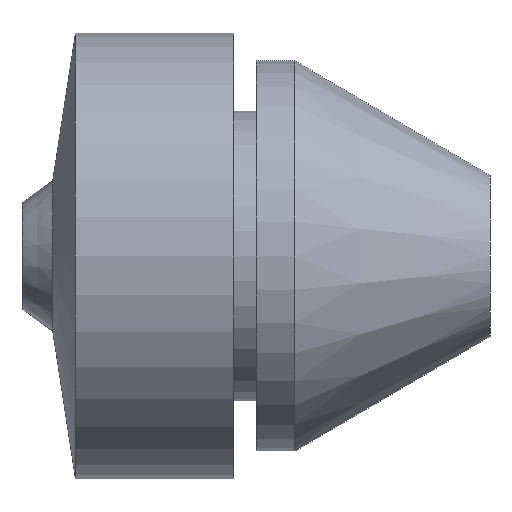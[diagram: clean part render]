
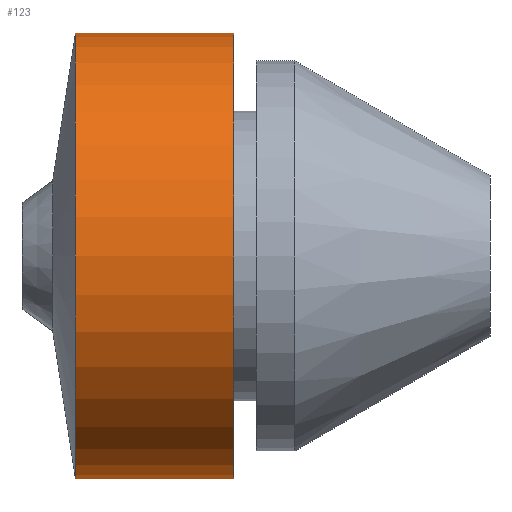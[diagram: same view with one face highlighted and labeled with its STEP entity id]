
A CAD part, left-side view. The second image highlights one B-rep face of the part: STEP entity #123.
In plain terms, the highlighted cylindrical face has radius 10 mm (diameter 20 mm), a partial arc.
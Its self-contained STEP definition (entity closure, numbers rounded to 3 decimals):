
#41 = CARTESIAN_POINT ( 'NONE',  ( 0., 11.5, 0. ) ) ;
#42 = DIRECTION ( 'NONE',  ( 0., -1., 0. ) ) ;
#43 = DIRECTION ( 'NONE',  ( 0., 0., -1. ) ) ;
#51 = CARTESIAN_POINT ( 'NONE',  ( 0., 0., 10. ) ) ;
#56 = CARTESIAN_POINT ( 'NONE',  ( 0., 0., -10. ) ) ;
#58 = DIRECTION ( 'NONE',  ( 0., -1., 0. ) ) ;
#59 = DIRECTION ( 'NONE',  ( 0., -1., 0. ) ) ;
#62 = CARTESIAN_POINT ( 'NONE',  ( 0., 18.601, 0. ) ) ;
#63 = DIRECTION ( 'NONE',  ( 0., 1., 0. ) ) ;
#64 = DIRECTION ( 'NONE',  ( 0., 0., 1. ) ) ;
#123 = ADVANCED_FACE ( 'NONE', ( #375 ), #380, .T. ) ;
#188 = ORIENTED_EDGE ( 'NONE', *, *, #309, .F. ) ;
#193 = ORIENTED_EDGE ( 'NONE', *, *, #316, .F. ) ;
#199 = ORIENTED_EDGE ( 'NONE', *, *, #318, .F. ) ;
#200 = ORIENTED_EDGE ( 'NONE', *, *, #317, .T. ) ;
#201 = VERTEX_POINT ( 'NONE', #445 ) ;
#203 = VERTEX_POINT ( 'NONE', #269 ) ;
#204 = VERTEX_POINT ( 'NONE', #261 ) ;
#205 = VERTEX_POINT ( 'NONE', #437 ) ;
#225 = EDGE_LOOP ( 'NONE', ( #193, #199, #200, #188 ) ) ;
#261 = CARTESIAN_POINT ( 'NONE',  ( 0., 18.601, 10. ) ) ;
#269 = CARTESIAN_POINT ( 'NONE',  ( 0., 18.601, -10. ) ) ;
#284 = AXIS2_PLACEMENT_3D ( 'NONE', #41, #42, #43 ) ;
#286 = AXIS2_PLACEMENT_3D ( 'NONE', #467, #470, #468 ) ;
#309 = EDGE_CURVE ( 'NONE', #205, #201, #398, .T. ) ;
#316 = EDGE_CURVE ( 'NONE', #204, #205, #408, .T. ) ;
#317 = EDGE_CURVE ( 'NONE', #203, #201, #410, .T. ) ;
#318 = EDGE_CURVE ( 'NONE', #203, #204, #412, .T. ) ;
#338 = AXIS2_PLACEMENT_3D ( 'NONE', #62, #63, #64 ) ;
#375 = FACE_OUTER_BOUND ( 'NONE', #225, .T. ) ;
#380 = CYLINDRICAL_SURFACE ( 'NONE', #286, 10. ) ;
#398 = CIRCLE ( 'NONE', #284, 10. ) ;
#408 = LINE ( 'NONE', #51, #413 ) ;
#410 = LINE ( 'NONE', #56, #415 ) ;
#412 = CIRCLE ( 'NONE', #338, 10. ) ;
#413 = VECTOR ( 'NONE', #58, 1000. ) ;
#415 = VECTOR ( 'NONE', #59, 1000. ) ;
#437 = CARTESIAN_POINT ( 'NONE',  ( 0., 11.5, 10. ) ) ;
#445 = CARTESIAN_POINT ( 'NONE',  ( 0., 11.5, -10. ) ) ;
#467 = CARTESIAN_POINT ( 'NONE',  ( 0., 0., 0. ) ) ;
#468 = DIRECTION ( 'NONE',  ( 0., 0., -1. ) ) ;
#470 = DIRECTION ( 'NONE',  ( 0., -1., 0. ) ) ;
